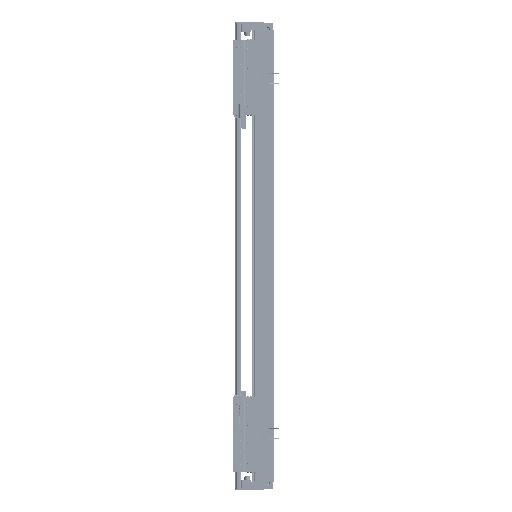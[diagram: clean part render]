
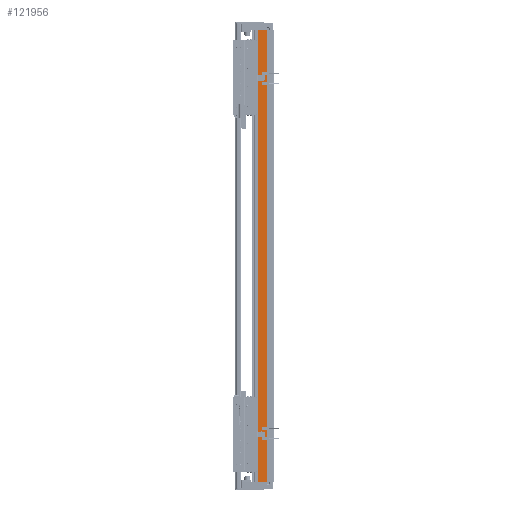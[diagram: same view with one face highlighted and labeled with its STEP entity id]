
A CAD part, left-side view. The second image highlights one B-rep face of the part: STEP entity #121956.
In plain terms, the highlighted planar face has unit normal (-1, 0, 0).
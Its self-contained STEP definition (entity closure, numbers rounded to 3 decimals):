
#1205 = VECTOR ( 'NONE', #85483, 1000. ) ;
#9585 = CARTESIAN_POINT ( 'NONE',  ( -97.5, 36.95, 570. ) ) ;
#10241 = DIRECTION ( 'NONE',  ( 0., -1., 0. ) ) ;
#11594 = AXIS2_PLACEMENT_3D ( 'NONE', #9585, #129139, #19117 ) ;
#12549 = LINE ( 'NONE', #131355, #91478 ) ;
#16056 = ORIENTED_EDGE ( 'NONE', *, *, #136667, .F. ) ;
#17089 = VERTEX_POINT ( 'NONE', #24923 ) ;
#17807 = EDGE_CURVE ( 'NONE', #17089, #146166, #109249, .T. ) ;
#19117 = DIRECTION ( 'NONE',  ( 0., 1., 0. ) ) ;
#19545 = CARTESIAN_POINT ( 'NONE',  ( -97.5, 14.45, 570. ) ) ;
#24923 = CARTESIAN_POINT ( 'NONE',  ( -97.5, 36.95, -570. ) ) ;
#28146 = VECTOR ( 'NONE', #69421, 1000. ) ;
#37208 = CARTESIAN_POINT ( 'NONE',  ( -97.5, 36.95, -570. ) ) ;
#40621 = ORIENTED_EDGE ( 'NONE', *, *, #17807, .T. ) ;
#52174 = DIRECTION ( 'NONE',  ( 0., 0., -1. ) ) ;
#69421 = DIRECTION ( 'NONE',  ( 0., 0., -1. ) ) ;
#72754 = VERTEX_POINT ( 'NONE', #100449 ) ;
#73874 = EDGE_CURVE ( 'NONE', #91695, #17089, #121120, .T. ) ;
#74595 = CARTESIAN_POINT ( 'NONE',  ( -97.5, 14.45, -570. ) ) ;
#81280 = LINE ( 'NONE', #19545, #28146 ) ;
#85483 = DIRECTION ( 'NONE',  ( 0., -1., 0. ) ) ;
#87812 = CARTESIAN_POINT ( 'NONE',  ( -97.5, 36.95, 570. ) ) ;
#91478 = VECTOR ( 'NONE', #10241, 1000. ) ;
#91695 = VERTEX_POINT ( 'NONE', #155988 ) ;
#99495 = ORIENTED_EDGE ( 'NONE', *, *, #103761, .F. ) ;
#100449 = CARTESIAN_POINT ( 'NONE',  ( -97.5, 14.45, 570. ) ) ;
#103047 = PLANE ( 'NONE',  #11594 ) ;
#103761 = EDGE_CURVE ( 'NONE', #91695, #72754, #12549, .T. ) ;
#104443 = ORIENTED_EDGE ( 'NONE', *, *, #73874, .T. ) ;
#109249 = LINE ( 'NONE', #37208, #1205 ) ;
#116479 = FACE_OUTER_BOUND ( 'NONE', #152638, .T. ) ;
#121120 = LINE ( 'NONE', #87812, #154263 ) ;
#121956 = ADVANCED_FACE ( 'NONE', ( #116479 ), #103047, .F. ) ;
#129139 = DIRECTION ( 'NONE',  ( 1., 0., 0. ) ) ;
#131355 = CARTESIAN_POINT ( 'NONE',  ( -97.5, 36.95, 570. ) ) ;
#136667 = EDGE_CURVE ( 'NONE', #72754, #146166, #81280, .T. ) ;
#146166 = VERTEX_POINT ( 'NONE', #74595 ) ;
#152638 = EDGE_LOOP ( 'NONE', ( #40621, #16056, #99495, #104443 ) ) ;
#154263 = VECTOR ( 'NONE', #52174, 1000. ) ;
#155988 = CARTESIAN_POINT ( 'NONE',  ( -97.5, 36.95, 570. ) ) ;
